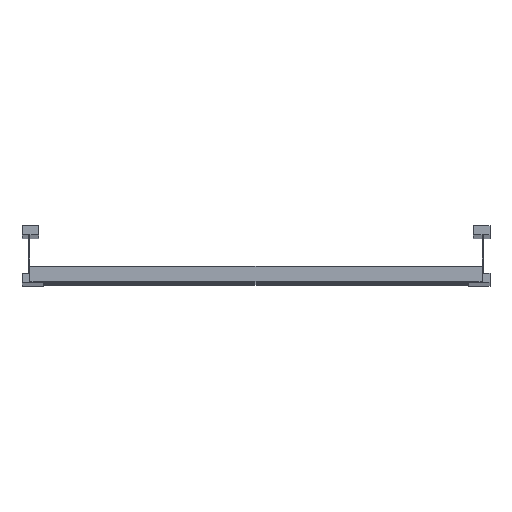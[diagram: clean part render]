
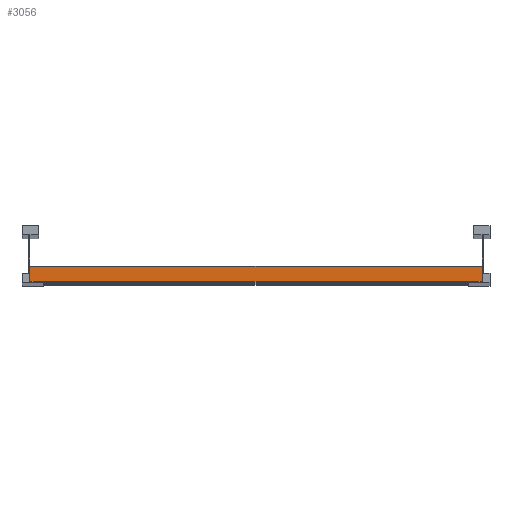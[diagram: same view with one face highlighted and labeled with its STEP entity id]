
A CAD part, top view. The second image highlights one B-rep face of the part: STEP entity #3056.
In plain terms, the highlighted planar face has unit normal (0, 0, 1).
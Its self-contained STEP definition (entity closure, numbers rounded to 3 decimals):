
#350 = LINE ( 'NONE', #923, #4979 ) ;
#493 = CARTESIAN_POINT ( 'NONE',  ( 298.5, 20., 20.25 ) ) ;
#858 = DIRECTION ( 'NONE',  ( 0., -1., 0. ) ) ;
#921 = EDGE_CURVE ( 'NONE', #5815, #1629, #350, .T. ) ;
#923 = CARTESIAN_POINT ( 'NONE',  ( 298.5, 20., 20.25 ) ) ;
#1114 = DIRECTION ( 'NONE',  ( 0., -1., 0. ) ) ;
#1629 = VERTEX_POINT ( 'NONE', #5111 ) ;
#1711 = VECTOR ( 'NONE', #4761, 1000. ) ;
#1947 = FACE_OUTER_BOUND ( 'NONE', #5850, .T. ) ;
#2313 = LINE ( 'NONE', #4198, #5247 ) ;
#2414 = DIRECTION ( 'NONE',  ( 0., 0., -1. ) ) ;
#2568 = CARTESIAN_POINT ( 'NONE',  ( 298.5, 20., 20.25 ) ) ;
#2746 = DIRECTION ( 'NONE',  ( -1., 0., 0. ) ) ;
#2770 = ORIENTED_EDGE ( 'NONE', *, *, #6113, .T. ) ;
#2814 = ORIENTED_EDGE ( 'NONE', *, *, #921, .F. ) ;
#2966 = LINE ( 'NONE', #5696, #1711 ) ;
#3056 = ADVANCED_FACE ( 'NONE', ( #1947 ), #3883, .F. ) ;
#3300 = CARTESIAN_POINT ( 'NONE',  ( -298.5, 0., 20.25 ) ) ;
#3396 = EDGE_CURVE ( 'NONE', #1629, #5280, #2313, .T. ) ;
#3654 = EDGE_CURVE ( 'NONE', #5251, #5280, #4882, .T. ) ;
#3883 = PLANE ( 'NONE',  #5645 ) ;
#3965 = CARTESIAN_POINT ( 'NONE',  ( -298.5, 20., 20.25 ) ) ;
#4198 = CARTESIAN_POINT ( 'NONE',  ( 298.5, 0., 20.25 ) ) ;
#4657 = VECTOR ( 'NONE', #1114, 1000. ) ;
#4761 = DIRECTION ( 'NONE',  ( -1., 0., 0. ) ) ;
#4766 = DIRECTION ( 'NONE',  ( 0., 1., 0. ) ) ;
#4882 = LINE ( 'NONE', #3965, #4657 ) ;
#4979 = VECTOR ( 'NONE', #858, 1000. ) ;
#5011 = ORIENTED_EDGE ( 'NONE', *, *, #3396, .F. ) ;
#5111 = CARTESIAN_POINT ( 'NONE',  ( 298.5, 0., 20.25 ) ) ;
#5210 = CARTESIAN_POINT ( 'NONE',  ( -298.5, 20., 20.25 ) ) ;
#5242 = ORIENTED_EDGE ( 'NONE', *, *, #3654, .T. ) ;
#5247 = VECTOR ( 'NONE', #2746, 1000. ) ;
#5251 = VERTEX_POINT ( 'NONE', #5210 ) ;
#5280 = VERTEX_POINT ( 'NONE', #3300 ) ;
#5645 = AXIS2_PLACEMENT_3D ( 'NONE', #493, #2414, #4766 ) ;
#5696 = CARTESIAN_POINT ( 'NONE',  ( 298.5, 20., 20.25 ) ) ;
#5815 = VERTEX_POINT ( 'NONE', #2568 ) ;
#5850 = EDGE_LOOP ( 'NONE', ( #5242, #5011, #2814, #2770 ) ) ;
#6113 = EDGE_CURVE ( 'NONE', #5815, #5251, #2966, .T. ) ;
